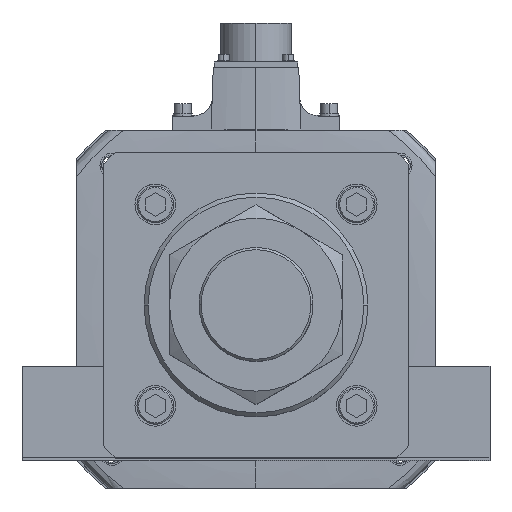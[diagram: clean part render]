
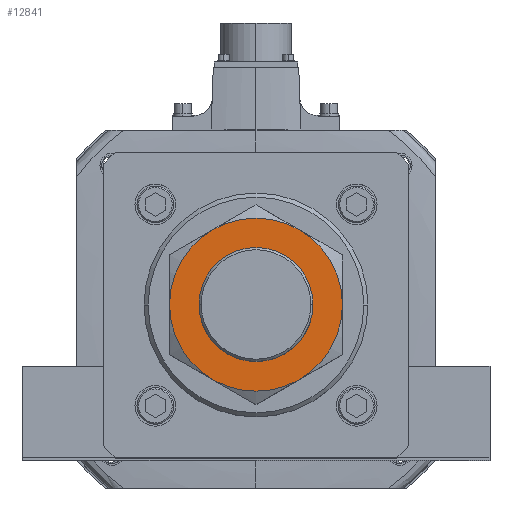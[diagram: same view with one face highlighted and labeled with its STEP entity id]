
A CAD part, top view. The second image highlights one B-rep face of the part: STEP entity #12841.
In plain terms, the highlighted planar face has unit normal (0, 0, 1).
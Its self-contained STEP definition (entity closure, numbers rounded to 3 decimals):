
#289 = CARTESIAN_POINT ( 'NONE',  ( 21.25, 36.806, 34. ) ) ;
#507 = DIRECTION ( 'NONE',  ( 0., 0., -1. ) ) ;
#688 = AXIS2_PLACEMENT_3D ( 'NONE', #53524, #1764, #36201 ) ;
#1103 = AXIS2_PLACEMENT_3D ( 'NONE', #30410, #17533, #17705 ) ;
#1243 = CARTESIAN_POINT ( 'NONE',  ( 0., 0., 34. ) ) ;
#1293 = EDGE_CURVE ( 'NONE', #47519, #2946, #27574, .T. ) ;
#1746 = DIRECTION ( 'NONE',  ( 0., 0., -1. ) ) ;
#1764 = DIRECTION ( 'NONE',  ( 0., 0., -1. ) ) ;
#1833 = AXIS2_PLACEMENT_3D ( 'NONE', #26154, #507, #47040 ) ;
#2313 = DIRECTION ( 'NONE',  ( 0., 0., -1. ) ) ;
#2514 = AXIS2_PLACEMENT_3D ( 'NONE', #1243, #43791, #30987 ) ;
#2654 = ORIENTED_EDGE ( 'NONE', *, *, #55165, .F. ) ;
#2717 = DIRECTION ( 'NONE',  ( 1., 0., 0. ) ) ;
#2946 = VERTEX_POINT ( 'NONE', #21745 ) ;
#3094 = ORIENTED_EDGE ( 'NONE', *, *, #54712, .F. ) ;
#3282 = DIRECTION ( 'NONE',  ( 0., 0., -1. ) ) ;
#7185 = EDGE_CURVE ( 'NONE', #24354, #40181, #23607, .T. ) ;
#8009 = EDGE_CURVE ( 'NONE', #32540, #12034, #28192, .T. ) ;
#10167 = DIRECTION ( 'NONE',  ( 1., 0., 0. ) ) ;
#10499 = CARTESIAN_POINT ( 'NONE',  ( 0., 0., 34. ) ) ;
#10614 = CIRCLE ( 'NONE', #688, 42.5 ) ;
#10967 = EDGE_LOOP ( 'NONE', ( #17350, #42055, #54143, #11274, #2654, #18681 ) ) ;
#11274 = ORIENTED_EDGE ( 'NONE', *, *, #38524, .F. ) ;
#12034 = VERTEX_POINT ( 'NONE', #289 ) ;
#12841 = ADVANCED_FACE ( 'NONE', ( #15122, #51378 ), #23621, .T. ) ;
#15103 = AXIS2_PLACEMENT_3D ( 'NONE', #24451, #3282, #2717 ) ;
#15122 = FACE_OUTER_BOUND ( 'NONE', #10967, .T. ) ;
#16268 = CARTESIAN_POINT ( 'NONE',  ( -42.5, 0., 34. ) ) ;
#16959 = EDGE_LOOP ( 'NONE', ( #3094, #45191 ) ) ;
#17154 = CARTESIAN_POINT ( 'NONE',  ( 0., 0., 34. ) ) ;
#17350 = ORIENTED_EDGE ( 'NONE', *, *, #24306, .F. ) ;
#17533 = DIRECTION ( 'NONE',  ( 0., 0., 1. ) ) ;
#17705 = DIRECTION ( 'NONE',  ( 1., 0., 0. ) ) ;
#18587 = AXIS2_PLACEMENT_3D ( 'NONE', #28118, #2313, #19906 ) ;
#18681 = ORIENTED_EDGE ( 'NONE', *, *, #7185, .F. ) ;
#19680 = DIRECTION ( 'NONE',  ( 0., 0., 1. ) ) ;
#19875 = AXIS2_PLACEMENT_3D ( 'NONE', #17154, #34542, #51679 ) ;
#19906 = DIRECTION ( 'NONE',  ( 1., 0., 0. ) ) ;
#20370 = AXIS2_PLACEMENT_3D ( 'NONE', #10499, #19680, #53852 ) ;
#21745 = CARTESIAN_POINT ( 'NONE',  ( -28., 0., 34. ) ) ;
#22867 = EDGE_CURVE ( 'NONE', #12034, #48213, #29250, .T. ) ;
#23607 = CIRCLE ( 'NONE', #55716, 42.5 ) ;
#23621 = PLANE ( 'NONE',  #20370 ) ;
#24036 = CARTESIAN_POINT ( 'NONE',  ( 21.25, -36.806, 34. ) ) ;
#24306 = EDGE_CURVE ( 'NONE', #48213, #24354, #10614, .T. ) ;
#24354 = VERTEX_POINT ( 'NONE', #24036 ) ;
#24451 = CARTESIAN_POINT ( 'NONE',  ( 0., 0., 34. ) ) ;
#24657 = CARTESIAN_POINT ( 'NONE',  ( 42.5, 0., 34. ) ) ;
#25568 = CARTESIAN_POINT ( 'NONE',  ( -21.25, -36.806, 34. ) ) ;
#26154 = CARTESIAN_POINT ( 'NONE',  ( 0., 0., 34. ) ) ;
#26207 = CARTESIAN_POINT ( 'NONE',  ( -21.25, 36.806, 34. ) ) ;
#27574 = CIRCLE ( 'NONE', #19875, 28. ) ;
#28118 = CARTESIAN_POINT ( 'NONE',  ( 0., 0., 34. ) ) ;
#28192 = CIRCLE ( 'NONE', #15103, 42.5 ) ;
#29250 = CIRCLE ( 'NONE', #18587, 42.5 ) ;
#30410 = CARTESIAN_POINT ( 'NONE',  ( 0., 0., 34. ) ) ;
#30987 = DIRECTION ( 'NONE',  ( -1., 0., 0. ) ) ;
#32540 = VERTEX_POINT ( 'NONE', #26207 ) ;
#32914 = CIRCLE ( 'NONE', #2514, 42.5 ) ;
#34542 = DIRECTION ( 'NONE',  ( 0., 0., 1. ) ) ;
#35038 = CARTESIAN_POINT ( 'NONE',  ( 28., 0., 34. ) ) ;
#35827 = CARTESIAN_POINT ( 'NONE',  ( 0., 0., 34. ) ) ;
#36201 = DIRECTION ( 'NONE',  ( 1., 0., 0. ) ) ;
#38524 = EDGE_CURVE ( 'NONE', #42124, #32540, #32914, .T. ) ;
#40181 = VERTEX_POINT ( 'NONE', #25568 ) ;
#42055 = ORIENTED_EDGE ( 'NONE', *, *, #22867, .F. ) ;
#42124 = VERTEX_POINT ( 'NONE', #16268 ) ;
#43024 = CIRCLE ( 'NONE', #1103, 28. ) ;
#43791 = DIRECTION ( 'NONE',  ( 0., 0., -1. ) ) ;
#45191 = ORIENTED_EDGE ( 'NONE', *, *, #1293, .F. ) ;
#47040 = DIRECTION ( 'NONE',  ( 1., 0., 0. ) ) ;
#47519 = VERTEX_POINT ( 'NONE', #35038 ) ;
#48213 = VERTEX_POINT ( 'NONE', #24657 ) ;
#51378 = FACE_BOUND ( 'NONE', #16959, .T. ) ;
#51679 = DIRECTION ( 'NONE',  ( 1., 0., 0. ) ) ;
#53524 = CARTESIAN_POINT ( 'NONE',  ( 0., 0., 34. ) ) ;
#53852 = DIRECTION ( 'NONE',  ( 1., 0., 0. ) ) ;
#54143 = ORIENTED_EDGE ( 'NONE', *, *, #8009, .F. ) ;
#54419 = CIRCLE ( 'NONE', #1833, 42.5 ) ;
#54712 = EDGE_CURVE ( 'NONE', #2946, #47519, #43024, .T. ) ;
#55165 = EDGE_CURVE ( 'NONE', #40181, #42124, #54419, .T. ) ;
#55716 = AXIS2_PLACEMENT_3D ( 'NONE', #35827, #1746, #10167 ) ;
